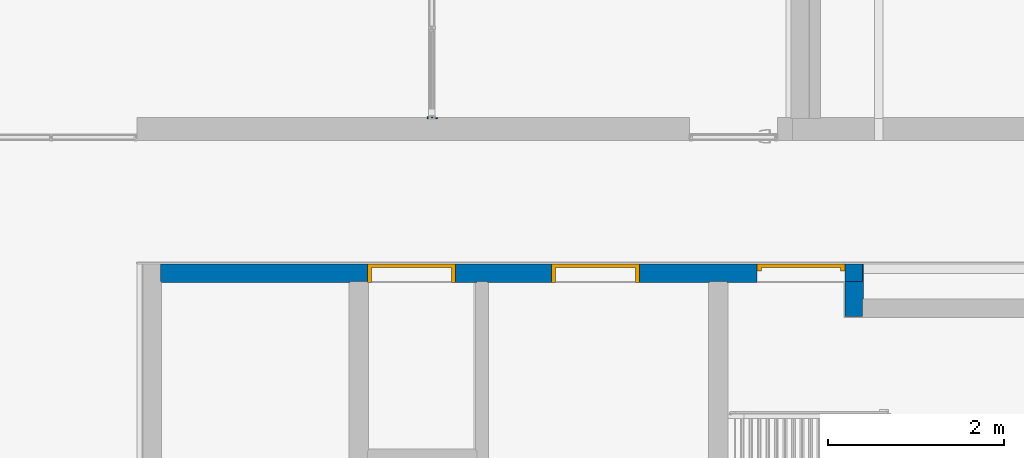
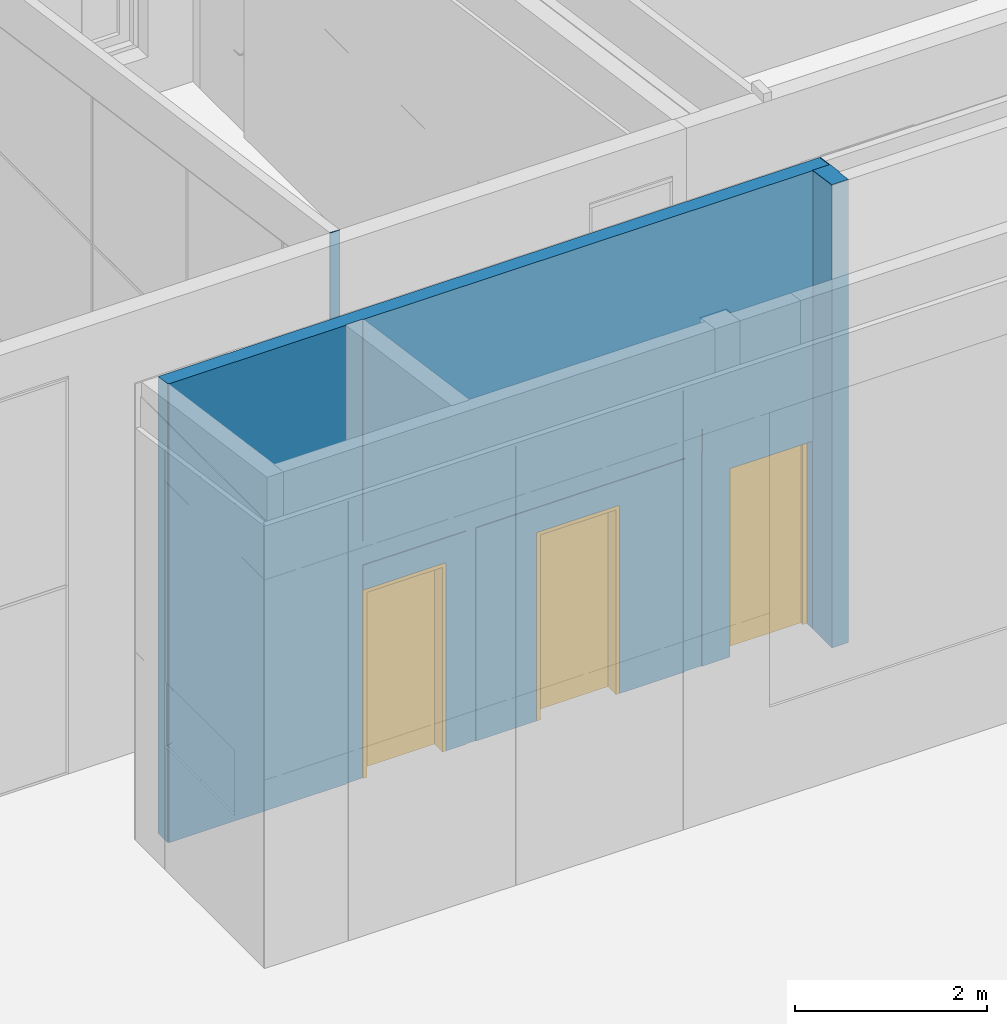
# One storey, part 126 of 246: 3 doors, 3 walls, 3 openings.
"""IFC2X3 building model written with IfcOpenShell, lengths in millimetres."""

from ifc_helpers import new_model, entity, si_unit, converted_unit, derived_unit, money_unit, direction, frame, origin_with_axes, place, context, subcontext, project, spatial, faceted_brep, material, material_list, type_object, element, fill, save


model = new_model("IFC2X3")

# Units and contexts
model_context = context("Model", 3, precision=0.01, world=origin_with_axes(), true_north=direction((0.0, 1.0)))
body_context = subcontext(model_context, "Body", "Model", "MODEL_VIEW")
ifc_project = project(units=[si_unit("LENGTHUNIT", "METRE", prefix="MILLI"), si_unit("AREAUNIT", "SQUARE_METRE"), si_unit("VOLUMEUNIT", "CUBIC_METRE"), converted_unit("PLANEANGLEUNIT", "DEGREE", entity("IfcPlaneAngleMeasure", 0.0174532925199), si_unit("PLANEANGLEUNIT", "RADIAN"), dimensions=[0, 0, 0, 0, 0, 0, 0]), si_unit("SOLIDANGLEUNIT", "STERADIAN"), money_unit("EUR"), converted_unit("TIMEUNIT", "Year", entity("IfcTimeMeasure", 31556926.0), si_unit("TIMEUNIT", "SECOND"), dimensions=[0, 0, 1, 0, 0, 0, 0]), si_unit("MASSUNIT", "GRAM", prefix="KILO"), si_unit("THERMODYNAMICTEMPERATUREUNIT", "DEGREE_CELSIUS"), si_unit("LUMINOUSINTENSITYUNIT", "LUMEN"), si_unit("ENERGYUNIT", "JOULE", prefix="MEGA"), derived_unit("THERMALCONDUCTANCEUNIT", [(si_unit("POWERUNIT", "WATT"), 1), (si_unit("LENGTHUNIT", "METRE"), -1), (si_unit("THERMODYNAMICTEMPERATUREUNIT", "KELVIN"), -1)]), derived_unit("SPECIFICHEATCAPACITYUNIT", [(si_unit("ENERGYUNIT", "JOULE"), 1), (si_unit("MASSUNIT", "GRAM", prefix="KILO"), -1), (si_unit("THERMODYNAMICTEMPERATUREUNIT", "KELVIN"), -1)]), derived_unit("MASSDENSITYUNIT", [(si_unit("MASSUNIT", "GRAM", prefix="KILO"), 1), (si_unit("VOLUMEUNIT", "CUBIC_METRE"), -1)])], contexts=[model_context])

# Site, building, storey
site_placement = place(None, origin_with_axes())
site = spatial("IfcSite", under=ifc_project, at=site_placement, Name="L.Koidula tn 11b", CompositionType="ELEMENT")
building_placement = place(site_placement, origin_with_axes())
building = spatial("IfcBuilding", under=site, at=building_placement, Name="Rakvere Riigigümnaasium", CompositionType="ELEMENT")
storey_placement = place(building_placement, origin_with_axes())
storey = spatial("IfcBuildingStorey", under=building, at=storey_placement, Name="1.korrus 0,00", CompositionType="ELEMENT", Elevation=0.0)

# Wall, openings, doors
ifc_material_1 = material(Name="Betoon element / plaat")
ifc_material_2 = material(Name="siseviimistlus-seinad")
ifc_material_list_1 = material_list([ifc_material_1, ifc_material_2])
wall_type_1 = type_object("IfcWallType", Name="SS-01-1 210", PredefinedType="NOTDEFINED")
wall_1_placement = place(storey_placement, frame((29559.9900192, 59940.4546496, 0.0), z_axis=(0.0, 0.0, 1.0), x_axis=(1.0, 0.0, 0.0)))
wall_1 = element("IfcWall", 1, at=wall_1_placement, inside=storey, type_object=wall_type_1, material=ifc_material_list_1, Name="Sisesein", context=body_context, shape_type="Brep", body=[
    faceted_brep([(5426.01002809, 8.17124146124e-09, 5816.14983913), (8170.00997195, 0.0, 5816.14982363), (8170.00997195, 0.0, 0.0), (7970.00997195, 0.0, 0.0), (7970.00997195, 0.0, 2400.0), (6970.00997195, 0.0, 2400.0), (6970.00997195, 0.0, 0.0), (5640.01003299, 0.0, 0.0), (5640.01003299, 0.0, 2400.0), (4640.01003299, 0.0, 2400.0), (4640.01003299, 0.0, 0.0), (3550.00472341, 0.0, 0.0), (3550.00472341, 0.0, 2400.0), (2550.00472341, 0.0, 2400.0), (2550.00472341, 0.0, 0.0), (200.0, 0.0, 0.0), (200.0, 0.0, 5816.1498686), (5426.01002809, -199.999999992, 5844.61405427), (8170.00997195, -200.0, 5844.61403877), (200.0, -200.0, 5844.61408375), (8170.00997195, -200.0, 0.0), (7970.00997195, -200.0, 0.0), (7970.00997195, -200.0, 2400.0), (6970.00997195, -200.0, 2400.0), (6970.00997195, -200.0, 0.0), (5640.01003299, -200.0, 0.0), (5640.01003299, -200.0, 2400.0), (4640.01003299, -200.0, 2400.0), (4640.01003299, -200.0, 0.0), (3550.00472341, -200.0, 0.0), (3550.00472341, -200.0, 2400.0), (2550.00472341, -200.0, 2400.0), (2550.00472341, -200.0, 0.0), (200.0, -200.0, 0.0)], [[[0, 1, 2, 3, 4, 5, 6, 7, 8, 9, 10, 11, 12, 13, 14, 15, 16]], [[17, 18, 1, 0, 16, 19]], [[1, 18, 20, 2]], [[3, 2, 20, 21]], [[3, 21, 22, 4]], [[4, 22, 23, 5]], [[5, 23, 24, 6]], [[24, 25, 7, 6]], [[26, 8, 7, 25]], [[27, 9, 8, 26]], [[28, 10, 9, 27]], [[10, 28, 29, 11]], [[29, 30, 12, 11]], [[30, 31, 13, 12]], [[31, 32, 14, 13]], [[33, 15, 14, 32]], [[15, 33, 19, 16]], [[18, 17, 19, 33, 32, 31, 30, 29, 28, 27, 26, 25, 24, 23, 22, 21, 20]]]),
    faceted_brep([(5426.01002809, -199.999999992, 5844.61405427), (7970.00997195, -200.0, 5844.6140399), (7970.00997195, -200.0, 2400.0), (6970.00997195, -200.0, 2400.0), (6970.00997195, -200.0, 0.0), (6630.00995215, -200.0, 0.0), (6630.00995215, -200.0, 2715.0), (6640.00995215, -200.0, 2715.0), (6640.00995215, -200.0, 3020.0), (2550.00472341, -200.0, 3020.0), (2550.00472341, -200.0, 5844.61407047), (5426.01002809, -209.999999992, 5846.03726503), (7970.00997195, -210.0, 5846.03725066), (2550.00472341, -210.0, 5846.03728122), (7970.00997195, -210.0, 2400.0), (6970.00997195, -210.0, 2400.0), (6970.00997195, -210.0, 0.0), (6630.00995215, -210.0, 0.0), (6630.00995215, -210.0, 2715.0), (6640.00995215, -210.0, 2715.0), (6640.00995215, -210.0, 3020.0), (2550.00472341, -210.0, 3020.0)], [[[0, 1, 2, 3, 4, 5, 6, 7, 8, 9, 10]], [[11, 12, 1, 0, 10, 13]], [[1, 12, 14, 2]], [[2, 14, 15, 3]], [[3, 15, 16, 4]], [[16, 17, 5, 4]], [[5, 17, 18, 6]], [[18, 19, 7, 6]], [[7, 19, 20, 8]], [[20, 21, 9, 8]], [[9, 21, 13, 10]], [[12, 11, 13, 21, 20, 19, 18, 17, 16, 15, 14]]]),
    faceted_brep([(210.0, -200.0, 0.0), (210.0, -200.0, 5844.61408369), (2350.00472341, -200.0, 5844.6140716), (2350.00472341, -200.0, 0.0), (210.0, -210.0, 0.0), (210.0, -210.0, 5846.03729445), (2350.00472341, -210.0, 5846.03728235), (2350.00472341, -210.0, 0.0)], [[[0, 1, 2, 3]], [[4, 5, 1, 0]], [[5, 6, 2, 1]], [[3, 2, 6, 7]], [[0, 3, 7, 4]], [[7, 6, 5, 4]]]),
    faceted_brep([(3550.00472341, -200.0, 2400.0), (2550.00472341, -200.0, 2400.0), (2550.00472341, -200.0, 2715.0), (3790.00472341, -200.0, 2715.0), (3790.00472341, -200.0, 0.0), (3550.00472341, -200.0, 0.0), (3550.00472341, -210.0, 2400.0), (2550.00472341, -210.0, 2400.0), (2550.00472341, -210.0, 2715.0), (3790.00472341, -210.0, 2715.0), (3790.00472341, -210.0, 0.0), (3550.00472341, -210.0, 0.0)], [[[0, 1, 2, 3, 4, 5]], [[1, 0, 6, 7]], [[1, 7, 8, 2]], [[3, 2, 8, 9]], [[9, 10, 4, 3]], [[11, 5, 4, 10]], [[0, 5, 11, 6]], [[6, 11, 10, 9, 8, 7]]]),
    faceted_brep([(4640.01003299, -200.0, 2400.0), (4640.01003299, -200.0, 0.0), (3910.00472341, -200.0, 0.0), (3910.00472341, -200.0, 2715.0), (6430.00995215, -200.0, 2715.0), (6430.00995215, -200.0, 0.0), (5640.01003299, -200.0, 0.0), (5640.01003299, -200.0, 2400.0), (4640.01003299, -210.0, 2400.0), (4640.01003299, -210.0, 0.0), (3910.00472341, -210.0, 0.0), (3910.00472341, -210.0, 2715.0), (6430.00995215, -210.0, 2715.0), (6430.00995215, -210.0, 0.0), (5640.01003299, -210.0, 0.0), (5640.01003299, -210.0, 2400.0)], [[[0, 1, 2, 3, 4, 5, 6, 7]], [[1, 0, 8, 9]], [[1, 9, 10, 2]], [[3, 2, 10, 11]], [[4, 3, 11, 12]], [[12, 13, 5, 4]], [[14, 6, 5, 13]], [[7, 6, 14, 15]], [[0, 7, 15, 8]], [[15, 14, 13, 12, 11, 10, 9, 8]]]),
])
opening_1_placement = place(wall_1_placement, frame((5140.01003299, 0.0, 0.0), z_axis=(0.0, 0.0, 1.0), x_axis=(1.0, 0.0, 0.0)))
opening_1 = element("IfcOpeningElement", 2, at=opening_1_placement, cuts=wall_1, Name="SU-004", context=body_context, shape_type="Brep", body=[
    faceted_brep([(-500.0, 420.0, 2400.0), (-500.0, 420.0, 0.0), (-500.0, -210.0, 0.0), (-500.0, -210.0, 2400.0), (500.0, 420.0, 2400.0), (500.0, 420.0, 0.0), (500.0, -210.0, 0.0), (500.0, -210.0, 2400.0)], [[[0, 1, 2, 3]], [[0, 4, 5, 1]], [[1, 5, 6, 2]], [[3, 2, 6, 7]], [[4, 0, 3, 7]], [[5, 4, 7, 6]]]),
])
opening_2_placement = place(wall_1_placement, frame((3050.00472341, 0.0, 0.0), z_axis=(0.0, 0.0, 1.0), x_axis=(1.0, 0.0, 0.0)))
opening_2 = element("IfcOpeningElement", 3, at=opening_2_placement, cuts=wall_1, Name="SU-003", context=body_context, shape_type="Brep", body=[
    faceted_brep([(500.0, -210.0, 2400.0), (500.0, -210.0, 0.0), (500.0, 420.0, 0.0), (500.0, 420.0, 2400.0), (-500.0, -210.0, 2400.0), (-500.0, -210.0, 0.0), (-500.0, 420.0, 0.0), (-500.0, 420.0, 2400.0)], [[[0, 1, 2, 3]], [[0, 4, 5, 1]], [[1, 5, 6, 2]], [[3, 2, 6, 7]], [[4, 0, 3, 7]], [[5, 4, 7, 6]]]),
])
opening_3_placement = place(wall_1_placement, frame((7470.00997195, 0.0, 0.0), z_axis=(0.0, 0.0, 1.0), x_axis=(1.0, 0.0, 0.0)))
opening_3 = element("IfcOpeningElement", 4, at=opening_3_placement, cuts=wall_1, Name="SU-005", context=body_context, shape_type="Brep", body=[
    faceted_brep([(500.0, -210.0, 2400.0), (500.0, -210.0, 0.0), (500.0, 420.0, 0.0), (500.0, 420.0, 2400.0), (-500.0, -210.0, 2400.0), (-500.0, -210.0, 0.0), (-500.0, 420.0, 0.0), (-500.0, 420.0, 2400.0)], [[[0, 1, 2, 3]], [[0, 4, 5, 1]], [[1, 5, 6, 2]], [[3, 2, 6, 7]], [[4, 0, 3, 7]], [[5, 4, 7, 6]]]),
])
door_style_1 = type_object("IfcDoorStyle", Name="Door 23", ConstructionType="NOTDEFINED", OperationType="SINGLE_SWING_LEFT", ParameterTakesPrecedence=False, Sizeable=False)
door_1_placement = place(opening_1_placement, frame((-500.0, 0.0, 0.0), z_axis=(0.0, 0.0, 1.0), x_axis=(1.0, 0.0, 0.0)))
door_1 = element("IfcDoor", 5, at=door_1_placement, inside=storey, type_object=door_style_1, Name="SU-004", ObjectType="DOOR", OverallHeight=2400.0, OverallWidth=1000.0, context=body_context, shape_type="Brep", body=[
    faceted_brep([(955.0, -40.0, 0.0), (955.0, -210.0, 0.0), (955.0, -210.0, 2355.0), (955.0, -40.0, 2355.0), (967.0, -40.0, 0.0), (967.0, 0.0, 0.0), (1000.0, 0.0, 0.0), (1000.0, -210.0, 0.0), (1000.0, -210.0, 2355.0), (967.0, -40.0, 2355.0), (1000.0, 0.0, 2355.0), (967.0, 0.0, 2355.0)], [[[0, 1, 2, 3]], [[4, 5, 6, 7, 1, 0]], [[1, 7, 8, 2]], [[9, 3, 2, 8, 10, 11]], [[9, 4, 0, 3]], [[11, 5, 4, 9]], [[11, 10, 6, 5]], [[6, 10, 8, 7]]]),
    faceted_brep([(33.0, -40.0, 2355.0), (33.0, 0.0, 2355.0), (0.0, 0.0, 2355.0), (0.0, -210.0, 2355.0), (45.0, -210.0, 2355.0), (45.0, -40.0, 2355.0), (33.0, -40.0, 0.0), (33.0, 0.0, 0.0), (0.0, 0.0, 0.0), (0.0, -210.0, 0.0), (45.0, -210.0, 0.0), (45.0, -40.0, 0.0)], [[[0, 1, 2, 3, 4, 5]], [[0, 6, 7, 1]], [[7, 8, 2, 1]], [[2, 8, 9, 3]], [[3, 9, 10, 4]], [[5, 4, 10, 11]], [[5, 11, 6, 0]], [[6, 11, 10, 9, 8, 7]]]),
    faceted_brep([(967.0, 0.0, 2367.0), (33.0, 0.0, 2367.0), (33.0, 0.0, 2355.0), (0.0, 0.0, 2355.0), (0.0, 0.0, 2400.0), (1000.0, 0.0, 2400.0), (1000.0, 0.0, 2355.0), (967.0, 0.0, 2355.0), (967.0, -40.0, 2367.0), (33.0, -40.0, 2367.0), (33.0, -40.0, 2355.0), (45.0, -40.0, 2355.0), (45.0, -210.0, 2355.0), (0.0, -210.0, 2355.0), (0.0, -210.0, 2400.0), (1000.0, -210.0, 2400.0), (1000.0, -210.0, 2355.0), (967.0, -40.0, 2355.0), (955.0, -210.0, 2355.0), (955.0, -40.0, 2355.0)], [[[0, 1, 2, 3, 4, 5, 6, 7]], [[0, 8, 9, 1]], [[1, 9, 10, 2]], [[10, 11, 12, 13, 3, 2]], [[4, 3, 13, 14]], [[5, 4, 14, 15]], [[6, 5, 15, 16]], [[17, 7, 6, 16, 18, 19]], [[7, 17, 8, 0]], [[10, 9, 8, 17, 19, 11]], [[19, 18, 12, 11]], [[12, 18, 16, 15, 14, 13]]]),
    faceted_brep([(33.0, 0.0, 0.0), (967.0, 0.0, 0.0), (967.0, -40.0, 0.0), (33.0, -40.0, 0.0), (33.0, 0.0, 2367.0), (967.0, 0.0, 2367.0), (967.0, -40.0, 2367.0), (33.0, -40.0, 2367.0)], [[[0, 1, 2, 3]], [[0, 4, 5, 1]], [[1, 5, 6, 2]], [[3, 2, 6, 7]], [[4, 0, 3, 7]], [[5, 4, 7, 6]]]),
])
fill(opening_1, door_1)
door_style_2 = type_object("IfcDoorStyle", Name="Door 23", ConstructionType="NOTDEFINED", OperationType="SINGLE_SWING_RIGHT", ParameterTakesPrecedence=False, Sizeable=False)
door_2_placement = place(opening_2_placement, frame((-500.0, 0.0, 0.0), z_axis=(0.0, 0.0, 1.0), x_axis=(1.0, 0.0, 0.0)))
door_2 = element("IfcDoor", 6, at=door_2_placement, inside=storey, type_object=door_style_2, Name="SU-003", ObjectType="DOOR", OverallHeight=2400.0, OverallWidth=1000.0, context=body_context, shape_type="Brep", body=[
    faceted_brep([(45.0, -40.0, 0.0), (45.0, -40.0, 2355.0), (45.0, -210.0, 2355.0), (45.0, -210.0, 0.0), (33.0, -40.0, 2355.0), (33.0, -40.0, 0.0), (33.0, 0.0, 2355.0), (0.0, 0.0, 2355.0), (0.0, -210.0, 2355.0), (0.0, -210.0, 0.0), (0.0, 0.0, 0.0), (33.0, 0.0, 0.0)], [[[0, 1, 2, 3]], [[4, 1, 0, 5]], [[4, 6, 7, 8, 2, 1]], [[3, 2, 8, 9]], [[5, 0, 3, 9, 10, 11]], [[6, 4, 5, 11]], [[6, 11, 10, 7]], [[10, 9, 8, 7]]]),
    faceted_brep([(967.0, -40.0, 2355.0), (955.0, -40.0, 2355.0), (955.0, -210.0, 2355.0), (1000.0, -210.0, 2355.0), (1000.0, 0.0, 2355.0), (967.0, 0.0, 2355.0), (967.0, -40.0, 0.0), (955.0, -40.0, 0.0), (955.0, -210.0, 0.0), (1000.0, -210.0, 0.0), (1000.0, 0.0, 0.0), (967.0, 0.0, 0.0)], [[[0, 1, 2, 3, 4, 5]], [[1, 0, 6, 7]], [[1, 7, 8, 2]], [[3, 2, 8, 9]], [[4, 3, 9, 10]], [[11, 5, 4, 10]], [[0, 5, 11, 6]], [[6, 11, 10, 9, 8, 7]]]),
    faceted_brep([(33.0, 0.0, 2367.0), (33.0, 0.0, 2355.0), (0.0, 0.0, 2355.0), (0.0, 0.0, 2400.0), (1000.0, 0.0, 2400.0), (1000.0, 0.0, 2355.0), (967.0, 0.0, 2355.0), (967.0, 0.0, 2367.0), (33.0, -40.0, 2367.0), (33.0, -40.0, 2355.0), (45.0, -40.0, 2355.0), (45.0, -210.0, 2355.0), (0.0, -210.0, 2355.0), (0.0, -210.0, 2400.0), (1000.0, -210.0, 2400.0), (1000.0, -210.0, 2355.0), (967.0, -40.0, 2355.0), (955.0, -210.0, 2355.0), (955.0, -40.0, 2355.0), (967.0, -40.0, 2367.0)], [[[0, 1, 2, 3, 4, 5, 6, 7]], [[1, 0, 8, 9]], [[9, 10, 11, 12, 2, 1]], [[2, 12, 13, 3]], [[3, 13, 14, 4]], [[4, 14, 15, 5]], [[16, 6, 5, 15, 17, 18]], [[7, 6, 16, 19]], [[0, 7, 19, 8]], [[16, 18, 10, 9, 8, 19]], [[10, 18, 17, 11]], [[17, 15, 14, 13, 12, 11]]]),
    faceted_brep([(967.0, 0.0, 0.0), (967.0, -40.0, 0.0), (33.0, -40.0, 0.0), (33.0, 0.0, 0.0), (967.0, 0.0, 2367.0), (967.0, -40.0, 2367.0), (33.0, -40.0, 2367.0), (33.0, 0.0, 2367.0)], [[[0, 1, 2, 3]], [[4, 5, 1, 0]], [[1, 5, 6, 2]], [[3, 2, 6, 7]], [[0, 3, 7, 4]], [[7, 6, 5, 4]]]),
])
fill(opening_2, door_2)
door_style_3 = type_object("IfcDoorStyle", Name="Door 23", ConstructionType="NOTDEFINED", OperationType="SINGLE_SWING_RIGHT", ParameterTakesPrecedence=False, Sizeable=False)
door_3_placement = place(opening_3_placement, frame((-500.0, 0.0, 0.0), z_axis=(0.0, 0.0, 1.0), x_axis=(1.0, 0.0, 0.0)))
door_3 = element("IfcDoor", 7, at=door_3_placement, inside=storey, type_object=door_style_3, Name="SU-005", ObjectType="DOOR", OverallHeight=2400.0, OverallWidth=1000.0, context=body_context, shape_type="Brep", body=[
    faceted_brep([(50.0, -40.0, 0.0), (50.0, -40.0, 2350.0), (50.0, -80.0, 2350.0), (50.0, -80.0, 0.0), (38.0, -40.0, 2350.0), (38.0, -40.0, 0.0), (38.0, 0.0, 2350.0), (0.0, 0.0, 2350.0), (0.0, -80.0, 2350.0), (0.0, -80.0, 0.0), (0.0, 0.0, 0.0), (38.0, 0.0, 0.0)], [[[0, 1, 2, 3]], [[4, 1, 0, 5]], [[4, 6, 7, 8, 2, 1]], [[3, 2, 8, 9]], [[5, 0, 3, 9, 10, 11]], [[6, 4, 5, 11]], [[6, 11, 10, 7]], [[10, 9, 8, 7]]]),
    faceted_brep([(962.0, -40.0, 2350.0), (950.0, -40.0, 2350.0), (950.0, -80.0, 2350.0), (1000.0, -80.0, 2350.0), (1000.0, 0.0, 2350.0), (962.0, 0.0, 2350.0), (962.0, -40.0, 0.0), (950.0, -40.0, 0.0), (950.0, -80.0, 0.0), (1000.0, -80.0, 0.0), (1000.0, 0.0, 0.0), (962.0, 0.0, 0.0)], [[[0, 1, 2, 3, 4, 5]], [[1, 0, 6, 7]], [[1, 7, 8, 2]], [[3, 2, 8, 9]], [[4, 3, 9, 10]], [[11, 5, 4, 10]], [[0, 5, 11, 6]], [[6, 11, 10, 9, 8, 7]]]),
    faceted_brep([(38.0, 0.0, 2362.0), (38.0, 0.0, 2350.0), (0.0, 0.0, 2350.0), (0.0, 0.0, 2400.0), (1000.0, 0.0, 2400.0), (1000.0, 0.0, 2350.0), (962.0, 0.0, 2350.0), (962.0, 0.0, 2362.0), (38.0, -40.0, 2362.0), (38.0, -40.0, 2350.0), (50.0, -40.0, 2350.0), (50.0, -80.0, 2350.0), (0.0, -80.0, 2350.0), (0.0, -80.0, 2400.0), (1000.0, -80.0, 2400.0), (1000.0, -80.0, 2350.0), (962.0, -40.0, 2350.0), (950.0, -80.0, 2350.0), (950.0, -40.0, 2350.0), (962.0, -40.0, 2362.0)], [[[0, 1, 2, 3, 4, 5, 6, 7]], [[1, 0, 8, 9]], [[9, 10, 11, 12, 2, 1]], [[2, 12, 13, 3]], [[3, 13, 14, 4]], [[4, 14, 15, 5]], [[16, 6, 5, 15, 17, 18]], [[7, 6, 16, 19]], [[0, 7, 19, 8]], [[16, 18, 10, 9, 8, 19]], [[10, 18, 17, 11]], [[17, 15, 14, 13, 12, 11]]]),
    faceted_brep([(962.0, 0.0, 0.0), (962.0, -40.0, 0.0), (38.0, -40.0, 0.0), (38.0, 0.0, 0.0), (962.0, 0.0, 2362.0), (962.0, -40.0, 2362.0), (38.0, -40.0, 2362.0), (38.0, 0.0, 2362.0)], [[[0, 1, 2, 3]], [[4, 5, 1, 0]], [[1, 5, 6, 2]], [[3, 2, 6, 7]], [[0, 3, 7, 4]], [[7, 6, 5, 4]]]),
])
fill(opening_3, door_3)

# Walls
ifc_material_list_2 = material_list([ifc_material_2, ifc_material_1])
wall_2_placement = place(storey_placement, frame((37529.9999911, 59940.4546496, 0.0), z_axis=(0.0, 0.0, 1.0), x_axis=(0.0, -1.0, 0.0)))
element("IfcWall", 8, at=wall_2_placement, inside=storey, type_object=wall_type_1, material=ifc_material_list_2, Name="Sisesein", context=body_context, shape_type="Brep", body=[
    faceted_brep([(0.0, 200.0, 5816.14982363), (0.0, 210.0, 5816.14982357), (0.0, 210.0, 0.0), (0.0, 200.0, 0.0), (400.0, 210.0, 5873.07825386), (400.0, 200.0, 5873.07825391), (400.0, 210.0, 0.0), (400.0, 200.0, 0.0)], [[[0, 1, 2, 3]], [[4, 1, 0, 5]], [[1, 4, 6, 2]], [[6, 7, 3, 2]], [[5, 0, 3, 7]], [[4, 5, 7, 6]]]),
    faceted_brep([(200.0, 0.0, 5844.6140399), (200.0, 200.0, 5844.61403877), (200.0, 200.0, 0.0), (200.0, 0.0, 0.0), (600.0, 200.0, 5901.54246905), (600.0, 0.0, 5901.54247018), (600.0, 200.0, 0.0), (600.0, 0.0, 0.0)], [[[0, 1, 2, 3]], [[4, 1, 0, 5]], [[1, 4, 6, 2]], [[6, 7, 3, 2]], [[5, 0, 3, 7]], [[4, 5, 7, 6]]]),
])
ifc_material_3 = material(Name="Kipsplaat")
ifc_material_4 = material(Name="mineraalvill+karkass")
ifc_material_list_3 = material_list([ifc_material_3, ifc_material_3, ifc_material_4, ifc_material_3, ifc_material_3])
wall_type_2 = type_object("IfcWallType", Name="SS-08 118", PredefinedType="NOTDEFINED")
wall_3_placement = place(storey_placement, frame((32880.0202258, 61601.0546496, 0.0), z_axis=(0.0, 0.0, 1.0), x_axis=(-0.164212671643, -0.986424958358, 0.0)))
element("IfcWall", 9, at=wall_3_placement, inside=storey, type_object=wall_type_2, material=ifc_material_list_3, Name="Sisesein", context=body_context, shape_type="Brep", body=[
    faceted_brep([(-1.03340596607, 12.5, 5579.95853025), (-2.10814514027, 25.4999633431, 5580.11146971), (-2.10814514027, 25.4999633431, 0.0), (-1.03340596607, 12.5, 0.0), (6.50082655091, 25.4999957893, 5581.32007593), (8.66496891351, 12.5, 5581.320076), (6.50083175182, 25.4999645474, 0.0), (8.66496891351, 12.5, 0.0)], [[[0, 1, 2, 3]], [[4, 1, 0, 5]], [[1, 4, 6, 2]], [[3, 2, 6, 7]], [[5, 0, 3, 7]], [[4, 5, 7, 6]]]),
    faceted_brep([(-2.0696120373e-06, 2.5033969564e-05, 5579.81147296), (-1.03340596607, 12.5, 5579.95853025), (-1.03340596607, 12.5, 0.0), (-2.0696120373e-06, 2.5033969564e-05, 0.0), (8.66496891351, 12.5, 5581.320076), (10.745871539, 2.50272620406e-05, 5581.32007608), (8.66496891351, 12.5, 0.0), (10.7458717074, 2.40157049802e-05, 0.0)], [[[0, 1, 2, 3]], [[4, 1, 0, 5]], [[1, 4, 6, 2]], [[3, 2, 6, 7]], [[5, 0, 3, 7]], [[4, 5, 7, 6]]]),
    faceted_brep([(5.4563849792, -66.0000178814, 5579.03500839), (-2.0696120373e-06, 2.5033969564e-05, 5579.81147296), (-2.0696120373e-06, 2.5033969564e-05, 0.0), (5.4563849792, -66.0000178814, 0.0), (10.745871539, 2.50272620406e-05, 5581.32007608), (21.7330665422, -66.0000178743, 5581.32007645), (10.7458717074, 2.40157049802e-05, 0.0), (21.7330663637, -66.0000168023, 0.0)], [[[0, 1, 2, 3]], [[4, 1, 0, 5]], [[1, 4, 6, 2]], [[3, 2, 6, 7]], [[5, 0, 3, 7]], [[4, 5, 7, 6]]]),
    faceted_brep([(6.53112570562, -79.0, 5578.88206871), (5.4563849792, -66.0000178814, 5579.03500839), (5.4563849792, -66.0000178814, 0.0), (6.53112570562, -79.0, 0.0), (21.7330665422, -66.0000178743, 5581.32007645), (23.8972066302, -79.0, 5581.32007653), (21.7330663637, -66.0000168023, 0.0), (23.8972066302, -79.0, 0.0)], [[[0, 1, 2, 3]], [[4, 1, 0, 5]], [[1, 4, 6, 2]], [[3, 2, 6, 7]], [[5, 0, 3, 7]], [[4, 5, 7, 6]]]),
    faceted_brep([(7.60586791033, -92.0, 5578.72912882), (6.53112570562, -79.0, 5578.88206871), (6.53112570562, -79.0, 0.0), (7.60586791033, -92.0, 0.0), (23.8972066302, -79.0, 5581.32007653), (26.0613496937, -92.0, 5581.3200766), (23.8972066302, -79.0, 0.0), (26.0613496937, -92.0, 0.0)], [[[0, 1, 2, 3]], [[4, 1, 0, 5]], [[1, 4, 6, 2]], [[3, 2, 6, 7]], [[5, 0, 3, 7]], [[4, 5, 7, 6]]]),
])

save(model, "model.ifc")
